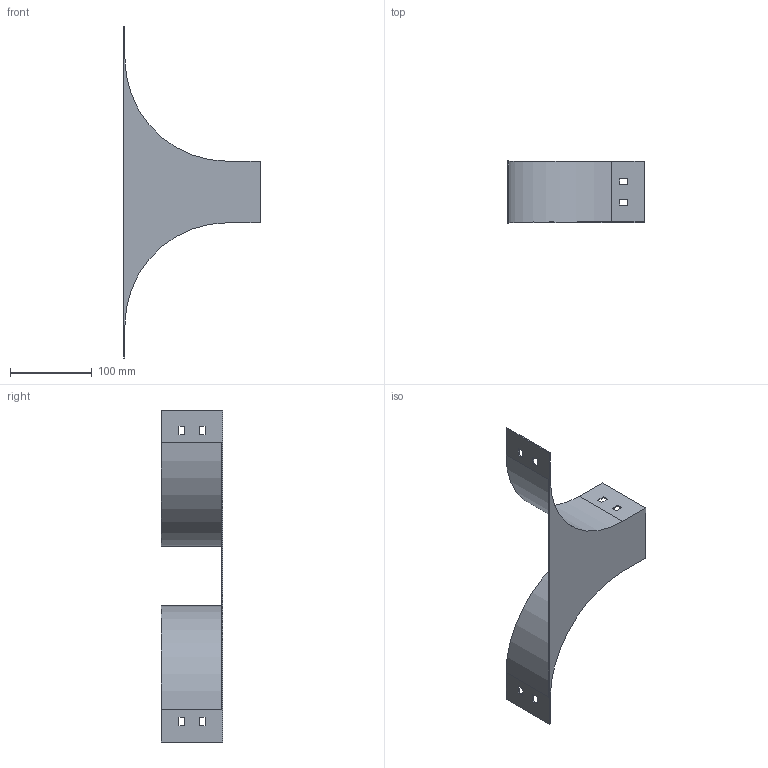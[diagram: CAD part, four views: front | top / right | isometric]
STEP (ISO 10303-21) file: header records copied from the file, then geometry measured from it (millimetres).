
FILE_DESCRIPTION (( 'STEP AP214' ), '1' );
FILE_NAME ('RL_077.step', '2025-07-16T09:24:35', ( '' ), ( '' ), 'SwSTEP 2.0', 'SolidWorks 2023', '' );
FILE_SCHEMA (( 'AUTOMOTIVE_DESIGN' ));
Length unit declared in the file: millimetre
Products named in the file (1): RL_077
Bounding box: 166.5 x 75 x 405 mm (x, y, z)
Volume: 89888.1 mm3; surface area: 122253.3 mm2
Topology: 1 solids, 1 shells, 50 faces, 144 edges, 96 vertices
Faces by surface type: plane 46, cylinder 4
Entity records: 1671 total; most frequent: CARTESIAN_POINT 291, ORIENTED_EDGE 288, DIRECTION 254, EDGE_CURVE 144, LINE 136, VECTOR 136, VERTEX_POINT 96, EDGE_LOOP 66
